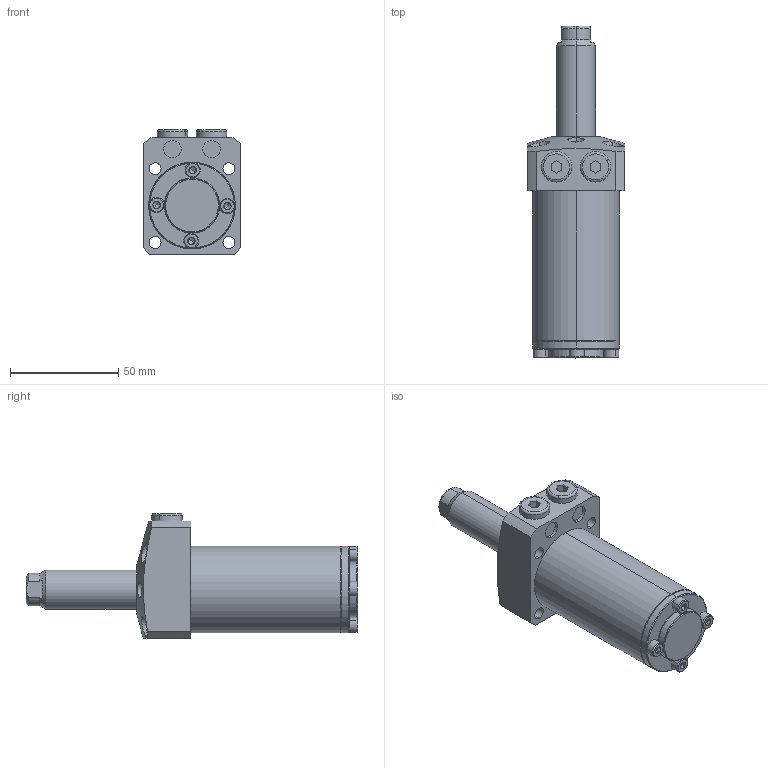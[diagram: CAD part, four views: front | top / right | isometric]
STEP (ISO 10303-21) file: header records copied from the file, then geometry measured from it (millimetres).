
FILE_DESCRIPTION (( 'STEP AP203' ), '1' );
FILE_NAME ('680400-CA-051.step', '2016-11-02T03:17:54', ( 'wxp' ), ( '' ), 'SwSTEP 2.0', 'SolidWorks 2011', '' );
FILE_SCHEMA (( 'CONFIG_CONTROL_DESIGN' ));
Length unit declared in the file: millimetre
Products named in the file (7): 680400-CA-051; 葩璃 680400-CA-51-4^680400-CA-051; 葩璃 680400-CA-51-3^680400-CA-051; 葩璃 680400-15-4^680400-CA-051; 葩璃 680400-15-3^680400-CA-051; 葩璃 680400-CA-51-2^680400-CA-051; 葩璃 680400-CA-51-1^680400-CA-051
Assembly tree (13 placements, depth 2):
  680400-CA-051
    葩璃 680400-CA-51-3^680400-CA-051  x4
    葩璃 680400-15-3^680400-CA-051
    葩璃 680400-CA-51-2^680400-CA-051
    葩璃 680400-15-4^680400-CA-051  x4
    葩璃 680400-CA-51-4^680400-CA-051  x2
    葩璃 680400-CA-51-1^680400-CA-051
Bounding box: 45 x 153 x 57.5 mm (x, y, z)
Volume: 147571.2 mm3; surface area: 35566.3 mm2
Topology: 13 solids, 13 shells, 415 faces, 797 edges, 428 vertices
Faces by surface type: plane 174, cone 120, cylinder 105, torus 16
Entity records: 6942 total; most frequent: CARTESIAN_POINT 1610, DIRECTION 1017, ORIENTED_EDGE 830, AXIS2_PLACEMENT_3D 425, EDGE_CURVE 415, VERTEX_POINT 246, EDGE_LOOP 241, CIRCLE 206
